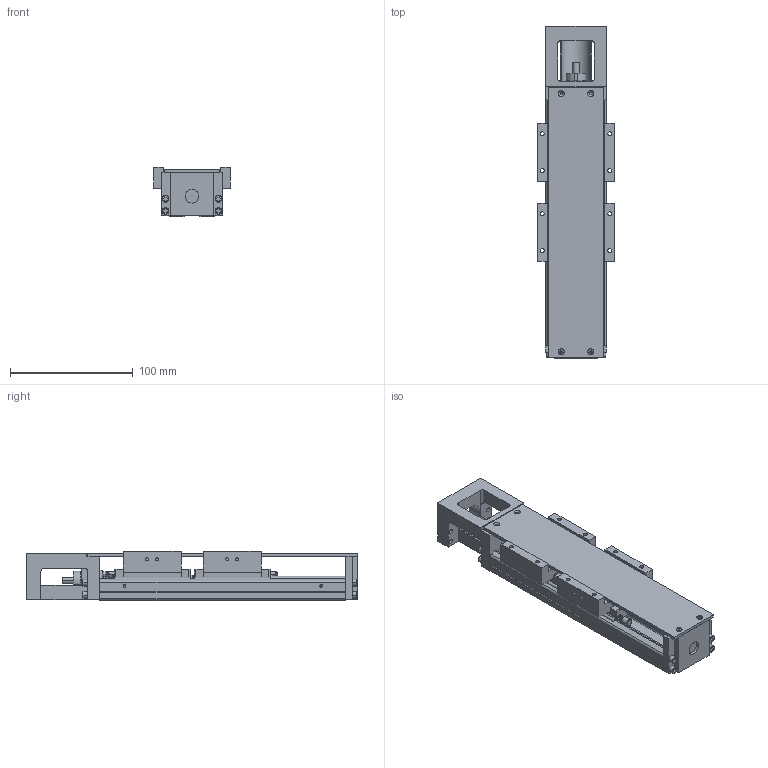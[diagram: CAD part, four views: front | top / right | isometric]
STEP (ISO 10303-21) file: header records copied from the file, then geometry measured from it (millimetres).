
FILE_DESCRIPTION(('no description'),'unknown implementation level');
FILE_NAME('KK5002P200A2F0C00_FILE_19.stp',' ',('HIWIN GmbH'),('CADClick - KiM GmbH - www.kimweb.de'),'unknown preprocess','ACIS','unknown authorization');
FILE_SCHEMA(('automotive_design'));
Length unit declared in the file: millimetre
Products named in the file (3): KK5002P200A2F0C00_FILE_1; KK50_FILE; KK5002P200A2F0C00_FILE
Bounding box: 62 x 270 x 40 mm (x, y, z)
Volume: 324162.6 mm3; surface area: 123100.3 mm2
Topology: 3 solids, 19 shells, 1203 faces, 3068 edges, 1943 vertices
Faces by surface type: plane 722, cylinder 335, cone 94, torus 52
Entity records: 71373 total; most frequent: CARTESIAN_POINT 7133, DIRECTION 6324, STYLED_ITEM 6171, PRESENTATION_STYLE_ASSIGNMENT 6171, COLOUR_RGB 6171, ORIENTED_EDGE 6044, EDGE_CURVE 3022, CURVE_STYLE 3022
